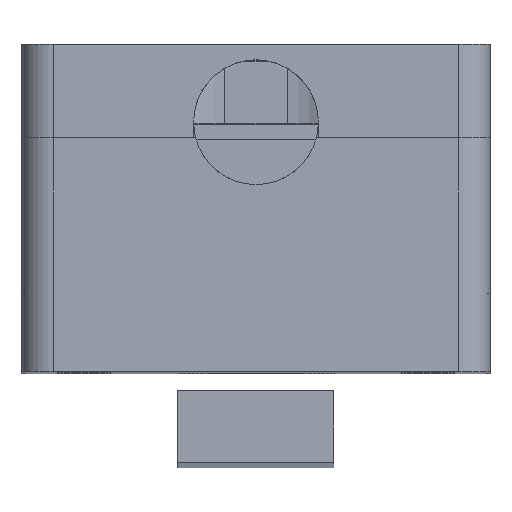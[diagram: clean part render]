
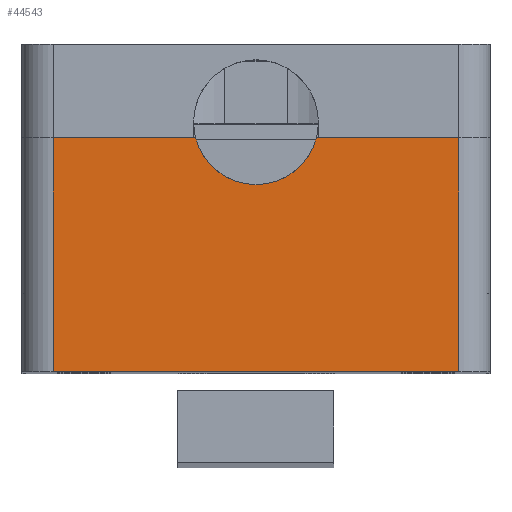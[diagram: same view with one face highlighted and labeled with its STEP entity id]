
A CAD part, top view. The second image highlights one B-rep face of the part: STEP entity #44543.
In plain terms, the highlighted planar face has unit normal (0, 0, 1).
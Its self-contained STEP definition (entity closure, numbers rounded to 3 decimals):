
#2622 = CARTESIAN_POINT ( 'NONE',  ( -7.5, 0., 17.5 ) ) ;
#2789 = CARTESIAN_POINT ( 'NONE',  ( -1.936, 7.5, 17.5 ) ) ;
#9986 = DIRECTION ( 'NONE',  ( 0., -1., 0. ) ) ;
#11917 = EDGE_CURVE ( 'NONE', #67983, #30584, #17239, .T. ) ;
#14125 = CARTESIAN_POINT ( 'NONE',  ( 0., 8., 17.5 ) ) ;
#15996 = ORIENTED_EDGE ( 'NONE', *, *, #11917, .T. ) ;
#17239 = LINE ( 'NONE', #103486, #26583 ) ;
#22458 = CARTESIAN_POINT ( 'NONE',  ( -7.5, 2., 17.5 ) ) ;
#24325 = EDGE_CURVE ( 'NONE', #67983, #98632, #134915, .T. ) ;
#24728 = EDGE_CURVE ( 'NONE', #98632, #79739, #123459, .T. ) ;
#25596 = VECTOR ( 'NONE', #100994, 1000. ) ;
#25772 = LINE ( 'NONE', #68185, #88736 ) ;
#26583 = VECTOR ( 'NONE', #79884, 1000. ) ;
#30584 = VERTEX_POINT ( 'NONE', #43045 ) ;
#39627 = DIRECTION ( 'NONE',  ( 1., 0., 0. ) ) ;
#39719 = EDGE_CURVE ( 'NONE', #30584, #97939, #65259, .T. ) ;
#43045 = CARTESIAN_POINT ( 'NONE',  ( -6.5, 0., 17.5 ) ) ;
#44499 = ORIENTED_EDGE ( 'NONE', *, *, #24325, .F. ) ;
#44543 = ADVANCED_FACE ( 'NONE', ( #94869 ), #76688, .F. ) ;
#51606 = VECTOR ( 'NONE', #86160, 1000. ) ;
#56485 = CARTESIAN_POINT ( 'NONE',  ( 6.5, 2., 17.5 ) ) ;
#58584 = EDGE_CURVE ( 'NONE', #97939, #121310, #130211, .T. ) ;
#65259 = LINE ( 'NONE', #2622, #51606 ) ;
#67983 = VERTEX_POINT ( 'NONE', #71163 ) ;
#68185 = CARTESIAN_POINT ( 'NONE',  ( -6.5, 7.5, 17.5 ) ) ;
#71163 = CARTESIAN_POINT ( 'NONE',  ( -6.5, 7.5, 17.5 ) ) ;
#76688 = PLANE ( 'NONE',  #107047 ) ;
#79739 = VERTEX_POINT ( 'NONE', #121347 ) ;
#79884 = DIRECTION ( 'NONE',  ( 0., -1., 0. ) ) ;
#83485 = CARTESIAN_POINT ( 'NONE',  ( -6.5, 7.5, 17.5 ) ) ;
#85214 = EDGE_CURVE ( 'NONE', #79739, #121310, #25772, .T. ) ;
#86160 = DIRECTION ( 'NONE',  ( 1., 0., 0. ) ) ;
#88736 = VECTOR ( 'NONE', #89805, 1000. ) ;
#89262 = DIRECTION ( 'NONE',  ( 0., 0., 1. ) ) ;
#89805 = DIRECTION ( 'NONE',  ( 1., 0., 0. ) ) ;
#90648 = DIRECTION ( 'NONE',  ( 1., 0., 0. ) ) ;
#91083 = EDGE_LOOP ( 'NONE', ( #44499, #15996, #124329, #127227, #134091, #121209 ) ) ;
#94869 = FACE_OUTER_BOUND ( 'NONE', #91083, .T. ) ;
#95544 = DIRECTION ( 'NONE',  ( 0., 0., -1. ) ) ;
#97939 = VERTEX_POINT ( 'NONE', #136696 ) ;
#98632 = VERTEX_POINT ( 'NONE', #2789 ) ;
#100994 = DIRECTION ( 'NONE',  ( 0., 1., 0. ) ) ;
#103486 = CARTESIAN_POINT ( 'NONE',  ( -6.5, 2., 17.5 ) ) ;
#107047 = AXIS2_PLACEMENT_3D ( 'NONE', #22458, #95544, #9986 ) ;
#114642 = VECTOR ( 'NONE', #39627, 1000. ) ;
#119171 = CARTESIAN_POINT ( 'NONE',  ( 6.5, 7.5, 17.5 ) ) ;
#121209 = ORIENTED_EDGE ( 'NONE', *, *, #24728, .F. ) ;
#121241 = AXIS2_PLACEMENT_3D ( 'NONE', #14125, #89262, #90648 ) ;
#121310 = VERTEX_POINT ( 'NONE', #119171 ) ;
#121347 = CARTESIAN_POINT ( 'NONE',  ( 1.936, 7.5, 17.5 ) ) ;
#123459 = CIRCLE ( 'NONE', #121241, 2. ) ;
#124329 = ORIENTED_EDGE ( 'NONE', *, *, #39719, .T. ) ;
#127227 = ORIENTED_EDGE ( 'NONE', *, *, #58584, .T. ) ;
#130211 = LINE ( 'NONE', #56485, #25596 ) ;
#134091 = ORIENTED_EDGE ( 'NONE', *, *, #85214, .F. ) ;
#134915 = LINE ( 'NONE', #83485, #114642 ) ;
#136696 = CARTESIAN_POINT ( 'NONE',  ( 6.5, 0., 17.5 ) ) ;
